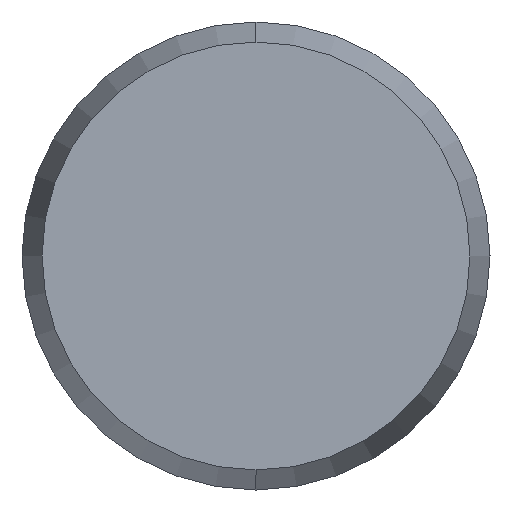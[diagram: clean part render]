
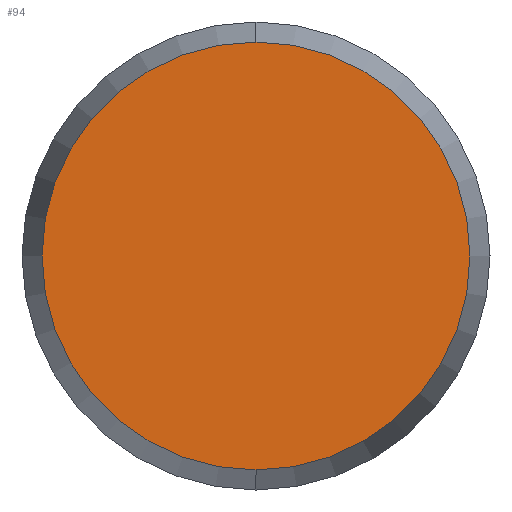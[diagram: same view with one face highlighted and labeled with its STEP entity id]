
A CAD part, left-side view. The second image highlights one B-rep face of the part: STEP entity #94.
In plain terms, the highlighted planar face has unit normal (-1, 0, 0).
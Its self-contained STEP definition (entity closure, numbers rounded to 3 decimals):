
#1 = DIRECTION ( 'NONE',  ( 0., 0., -1. ) ) ;
#2 = CIRCLE ( 'NONE', #5, 2.286 ) ;
#3 = DIRECTION ( 'NONE',  ( 1., 0., 0. ) ) ;
#4 = CARTESIAN_POINT ( 'NONE',  ( -5., 0., 0. ) ) ;
#5 = AXIS2_PLACEMENT_3D ( 'NONE', #4, #3, #1 ) ;
#16 = CARTESIAN_POINT ( 'NONE',  ( -5., 0., -2.286 ) ) ;
#30 = CARTESIAN_POINT ( 'NONE',  ( -5., 0., 2.286 ) ) ;
#92 = EDGE_CURVE ( 'NONE', #144, #148, #176, .T. ) ;
#94 = ADVANCED_FACE ( 'NONE', ( #160 ), #159, .F. ) ;
#95 = ORIENTED_EDGE ( 'NONE', *, *, #92, .F. ) ;
#101 = EDGE_LOOP ( 'NONE', ( #102, #95 ) ) ;
#102 = ORIENTED_EDGE ( 'NONE', *, *, #141, .F. ) ;
#116 = DIRECTION ( 'NONE',  ( 1., 0., 0. ) ) ;
#117 = CARTESIAN_POINT ( 'NONE',  ( -5., 0., 0. ) ) ;
#120 = DIRECTION ( 'NONE',  ( 0., 0., -1. ) ) ;
#125 = AXIS2_PLACEMENT_3D ( 'NONE', #117, #116, #120 ) ;
#141 = EDGE_CURVE ( 'NONE', #148, #144, #2, .T. ) ;
#144 = VERTEX_POINT ( 'NONE', #16 ) ;
#148 = VERTEX_POINT ( 'NONE', #30 ) ;
#152 = AXIS2_PLACEMENT_3D ( 'NONE', #155, #153, #154 ) ;
#153 = DIRECTION ( 'NONE',  ( 1., 0., 0. ) ) ;
#154 = DIRECTION ( 'NONE',  ( 0., 0., -1. ) ) ;
#155 = CARTESIAN_POINT ( 'NONE',  ( -5., 0., 0. ) ) ;
#159 = PLANE ( 'NONE',  #125 ) ;
#160 = FACE_OUTER_BOUND ( 'NONE', #101, .T. ) ;
#176 = CIRCLE ( 'NONE', #152, 2.286 ) ;
